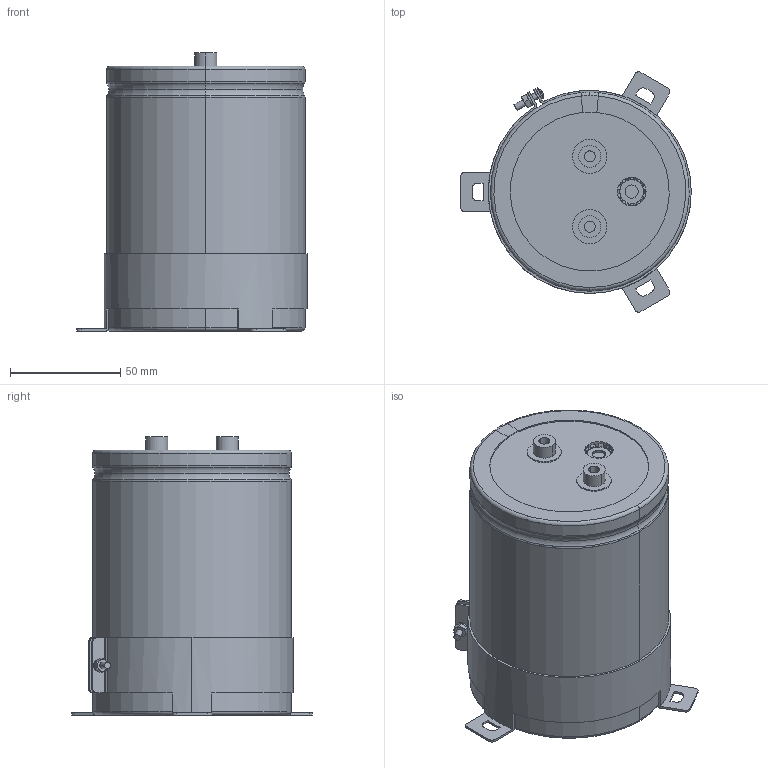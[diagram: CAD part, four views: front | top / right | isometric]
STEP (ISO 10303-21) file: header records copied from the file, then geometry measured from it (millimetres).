
FILE_DESCRIPTION(('STEP AP214'),'1');
FILE_NAME('90x120_Screw.stp','2022-03-14T08:07:49',(' '),(' '),'Spatial InterOp 3D',' ',' ');
FILE_SCHEMA(('AUTOMOTIVE_DESIGN { 1 0 10303 214 1 1 1 1 }'));
Length unit declared in the file: metre
Products named in the file (10): 90x120_Screw; Component1; Component2; Component3; Component4; Component5; Component6; Component7; Component8; Component9
Assembly tree (9 placements, depth 2):
  90x120_Screw
    Component1
    Component2
    Component3
    Component4
    Component5
    Component6
    Component7
    Component8
    Component9
Bounding box: 104.5 x 108.86 x 126 mm (x, y, z)
Volume: 765967.4 mm3; surface area: 141414.7 mm2
Topology: 9 solids, 9 shells, 352 faces, 873 edges, 551 vertices
Faces by surface type: plane 112, cylinder 110, torus 90, cone 38, sphere 2
Entity records: 11474 total; most frequent: DIRECTION 2126, CARTESIAN_POINT 1918, ORIENTED_EDGE 1746, AXIS2_PLACEMENT_3D 919, EDGE_CURVE 873, VERTEX_POINT 551, CIRCLE 511, EDGE_LOOP 380
